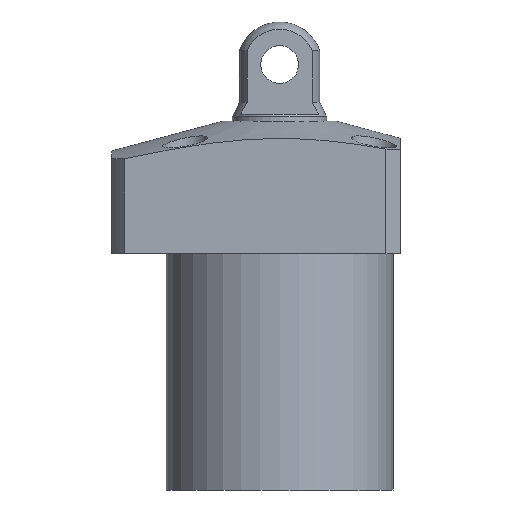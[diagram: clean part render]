
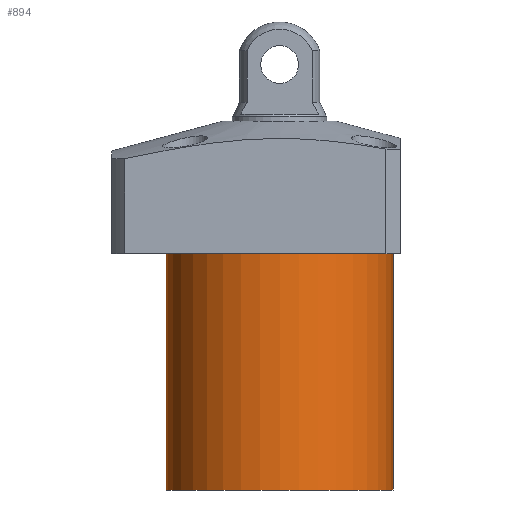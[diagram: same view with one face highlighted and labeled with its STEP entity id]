
A CAD part, front view. The second image highlights one B-rep face of the part: STEP entity #894.
In plain terms, the highlighted cylindrical face has radius 24 mm (diameter 48 mm), a partial arc.
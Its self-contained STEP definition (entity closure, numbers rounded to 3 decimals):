
#92 = VERTEX_POINT ( 'NONE', #1810 ) ;
#224 = AXIS2_PLACEMENT_3D ( 'NONE', #1546, #641, #1774 ) ;
#229 = DIRECTION ( 'NONE',  ( 1., 0., 0. ) ) ;
#404 = VERTEX_POINT ( 'NONE', #463 ) ;
#450 = LINE ( 'NONE', #564, #521 ) ;
#463 = CARTESIAN_POINT ( 'NONE',  ( 24., 0., -64. ) ) ;
#508 = ORIENTED_EDGE ( 'NONE', *, *, #1778, .T. ) ;
#521 = VECTOR ( 'NONE', #1442, 1000. ) ;
#564 = CARTESIAN_POINT ( 'NONE',  ( 24., 0., -64. ) ) ;
#575 = CYLINDRICAL_SURFACE ( 'NONE', #1397, 24. ) ;
#641 = DIRECTION ( 'NONE',  ( 0., 0., -1. ) ) ;
#846 = CIRCLE ( 'NONE', #224, 24. ) ;
#869 = DIRECTION ( 'NONE',  ( 1., 0., 0. ) ) ;
#894 = ADVANCED_FACE ( 'NONE', ( #1249 ), #575, .T. ) ;
#960 = CARTESIAN_POINT ( 'NONE',  ( 0., 0., -14. ) ) ;
#972 = VECTOR ( 'NONE', #1908, 1000. ) ;
#1008 = EDGE_CURVE ( 'NONE', #1026, #92, #2086, .T. ) ;
#1026 = VERTEX_POINT ( 'NONE', #1467 ) ;
#1046 = CARTESIAN_POINT ( 'NONE',  ( 0., 0., -64. ) ) ;
#1147 = EDGE_CURVE ( 'NONE', #404, #1959, #846, .T. ) ;
#1249 = FACE_OUTER_BOUND ( 'NONE', #1391, .T. ) ;
#1300 = DIRECTION ( 'NONE',  ( 0., 0., -1. ) ) ;
#1391 = EDGE_LOOP ( 'NONE', ( #2125, #2104, #508, #1625 ) ) ;
#1397 = AXIS2_PLACEMENT_3D ( 'NONE', #1046, #1981, #869 ) ;
#1442 = DIRECTION ( 'NONE',  ( 0., 0., 1. ) ) ;
#1467 = CARTESIAN_POINT ( 'NONE',  ( 24., 0., -14. ) ) ;
#1519 = CARTESIAN_POINT ( 'NONE',  ( -24., 0., -64. ) ) ;
#1521 = LINE ( 'NONE', #1519, #972 ) ;
#1546 = CARTESIAN_POINT ( 'NONE',  ( 0., 0., -64. ) ) ;
#1625 = ORIENTED_EDGE ( 'NONE', *, *, #1008, .T. ) ;
#1774 = DIRECTION ( 'NONE',  ( -1., 0., 0. ) ) ;
#1778 = EDGE_CURVE ( 'NONE', #404, #1026, #450, .T. ) ;
#1810 = CARTESIAN_POINT ( 'NONE',  ( -24., 0., -14. ) ) ;
#1898 = CARTESIAN_POINT ( 'NONE',  ( -24., 0., -64. ) ) ;
#1903 = EDGE_CURVE ( 'NONE', #1959, #92, #1521, .T. ) ;
#1908 = DIRECTION ( 'NONE',  ( 0., 0., 1. ) ) ;
#1959 = VERTEX_POINT ( 'NONE', #1898 ) ;
#1981 = DIRECTION ( 'NONE',  ( 0., 0., 1. ) ) ;
#2086 = CIRCLE ( 'NONE', #2181, 24. ) ;
#2104 = ORIENTED_EDGE ( 'NONE', *, *, #1147, .F. ) ;
#2125 = ORIENTED_EDGE ( 'NONE', *, *, #1903, .F. ) ;
#2181 = AXIS2_PLACEMENT_3D ( 'NONE', #960, #1300, #229 ) ;
